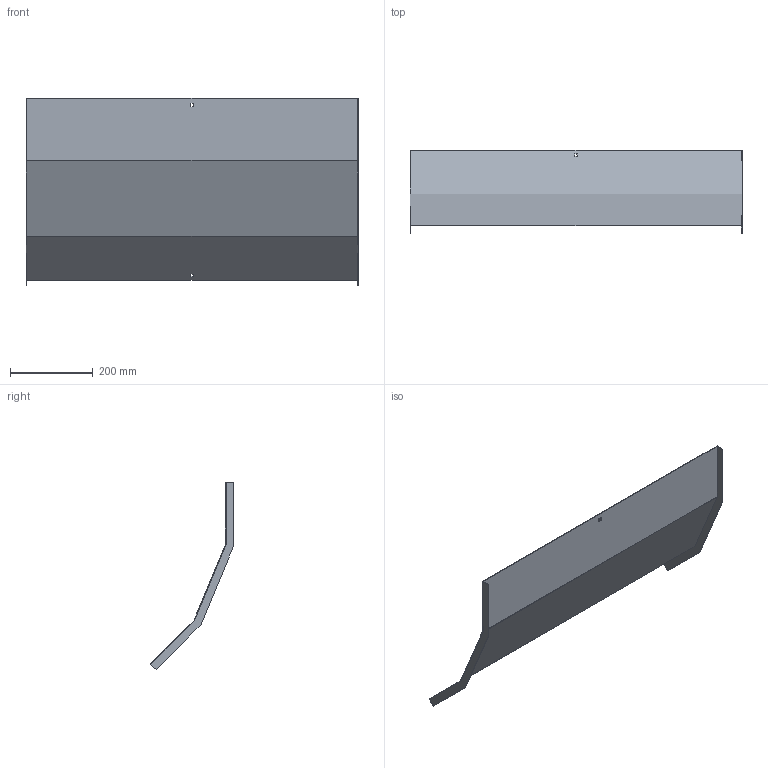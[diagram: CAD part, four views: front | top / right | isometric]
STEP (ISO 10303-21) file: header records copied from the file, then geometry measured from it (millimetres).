
FILE_DESCRIPTION (( 'STEP AP214' ), '1' );
FILE_NAME ('B2X31N5R800X.step', '2025-03-20T09:43:01', ( '' ), ( '' ), 'SwSTEP 2.0', 'SolidWorks 2023', '' );
FILE_SCHEMA (( 'AUTOMOTIVE_DESIGN' ));
Length unit declared in the file: millimetre
Products named in the file (1): B2X31N5R800X
Bounding box: 803 x 201.89 x 453.26 mm (x, y, z)
Volume: 628624 mm3; surface area: 842318.5 mm2
Topology: 1 solids, 1 shells, 26 faces, 72 edges, 48 vertices
Faces by surface type: plane 26
Entity records: 847 total; most frequent: CARTESIAN_POINT 147, ORIENTED_EDGE 144, DIRECTION 126, EDGE_CURVE 72, VECTOR 72, LINE 72, VERTEX_POINT 48, EDGE_LOOP 30
